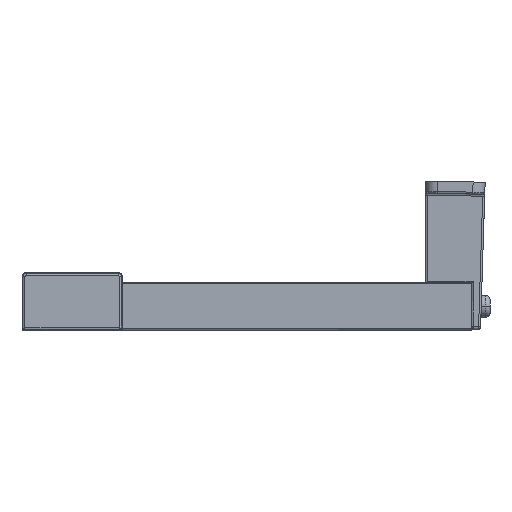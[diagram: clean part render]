
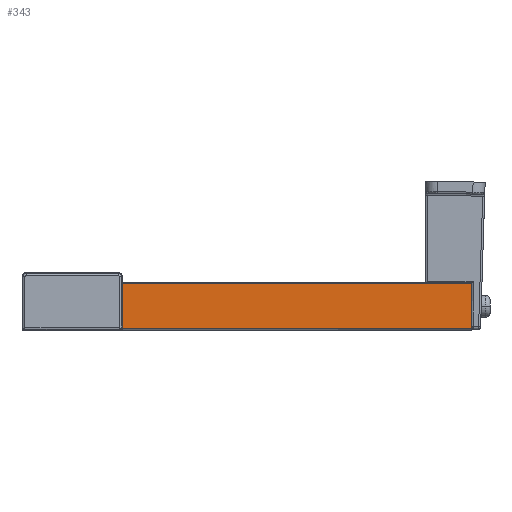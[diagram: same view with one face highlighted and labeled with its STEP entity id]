
A CAD part, left-side view. The second image highlights one B-rep face of the part: STEP entity #343.
In plain terms, the highlighted planar face has unit normal (-1, 0, 0).
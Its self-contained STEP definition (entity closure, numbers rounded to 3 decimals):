
#343=ADVANCED_FACE('',(#595),#487,.T.);
#487=PLANE('',#3127);
#595=FACE_OUTER_BOUND('',#765,.T.);
#765=EDGE_LOOP('',(#1350,#1351,#1352,#1353));
#1350=ORIENTED_EDGE('',*,*,#2287,.F.);
#1351=ORIENTED_EDGE('',*,*,#2274,.T.);
#1352=ORIENTED_EDGE('',*,*,#2288,.T.);
#1353=ORIENTED_EDGE('',*,*,#2147,.T.);
#1878=VERTEX_POINT('',#4181);
#1879=VERTEX_POINT('',#4183);
#1940=VERTEX_POINT('',#4781);
#1941=VERTEX_POINT('',#4783);
#2147=EDGE_CURVE('',#1879,#1878,#2563,.T.);
#2274=EDGE_CURVE('',#1941,#1940,#2650,.T.);
#2287=EDGE_CURVE('',#1941,#1878,#2658,.T.);
#2288=EDGE_CURVE('',#1940,#1879,#2659,.T.);
#2563=LINE('',#4182,#2808);
#2650=LINE('',#4782,#2895);
#2658=LINE('',#4823,#2903);
#2659=LINE('',#4825,#2904);
#2808=VECTOR('',#3366,1.);
#2895=VECTOR('',#3635,1.);
#2903=VECTOR('',#3655,1.);
#2904=VECTOR('',#3658,1.);
#3127=AXIS2_PLACEMENT_3D('',#4826,#3659,#3660);
#3366=DIRECTION('',(0.,0.,-1.));
#3635=DIRECTION('',(0.,0.,1.));
#3655=DIRECTION('',(0.,1.,0.));
#3658=DIRECTION('',(0.,1.,0.));
#3659=DIRECTION('',(-1.,0.,0.));
#3660=DIRECTION('',(0.,0.,1.));
#4181=CARTESIAN_POINT('',(-21.,0.,-14.));
#4182=CARTESIAN_POINT('',(-21.,0.,-2.8));
#4183=CARTESIAN_POINT('',(-21.,0.,-2.8));
#4781=CARTESIAN_POINT('',(-21.,-87.,-2.8));
#4782=CARTESIAN_POINT('',(-21.,-87.,-2.5));
#4783=CARTESIAN_POINT('',(-21.,-87.,-14.));
#4823=CARTESIAN_POINT('',(-21.,-87.,-14.));
#4825=CARTESIAN_POINT('',(-21.,-86.867,-2.8));
#4826=CARTESIAN_POINT('',(-21.,0.,-2.5));
